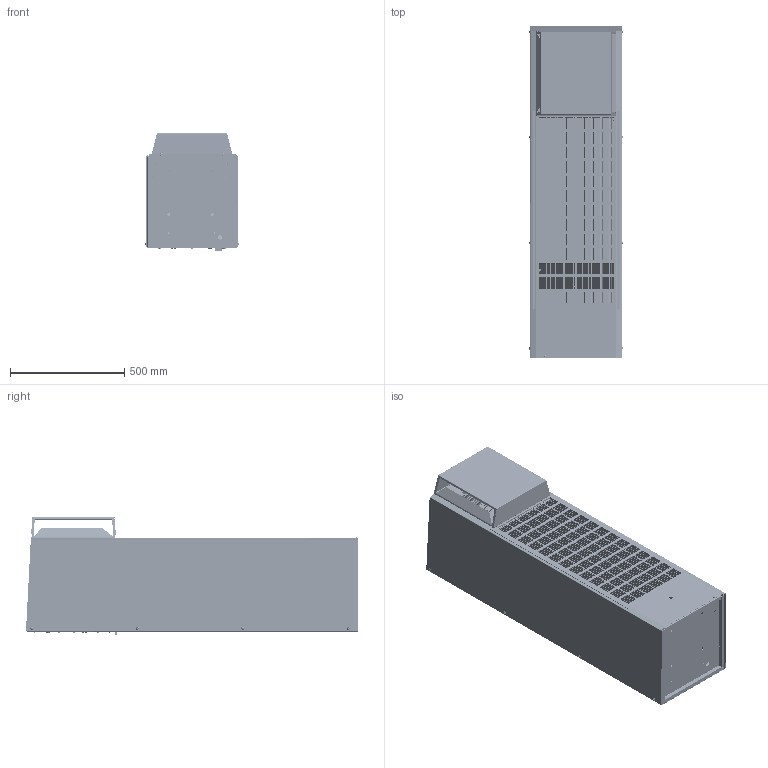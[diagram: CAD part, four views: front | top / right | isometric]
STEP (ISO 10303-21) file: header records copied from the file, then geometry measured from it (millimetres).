
FILE_DESCRIPTION (( 'STEP AP214' ), '1' );
FILE_NAME ('DTS 34-36x1.STEP', '2020-06-10T18:51:07', ( '' ), ( '' ), 'SwSTEP 2.0', 'SolidWorks 2018', '' );
FILE_SCHEMA (( 'AUTOMOTIVE_DESIGN' ));
Length unit declared in the file: millimetre
Products named in the file (1): DTS 34-36x1
Bounding box: 409.28 x 1452.14 x 512.74 mm (x, y, z)
Surface area: 11594607.1 mm2 (no closed solid volume)
Topology: 0 solids, 251 shells, 12380 faces, 31953 edges, 19823 vertices
Faces by surface type: plane 5055, cylinder 3999, cone 2115, bspline 499, torus 386, sphere 326
Entity records: 537892 total; most frequent: CARTESIAN_POINT 96289, DIRECTION 64364, ORIENTED_EDGE 62267, EDGE_CURVE 31141, AXIS2_PLACEMENT_3D 23368, VERTEX_POINT 19343, VECTOR 17628, LINE 17628
